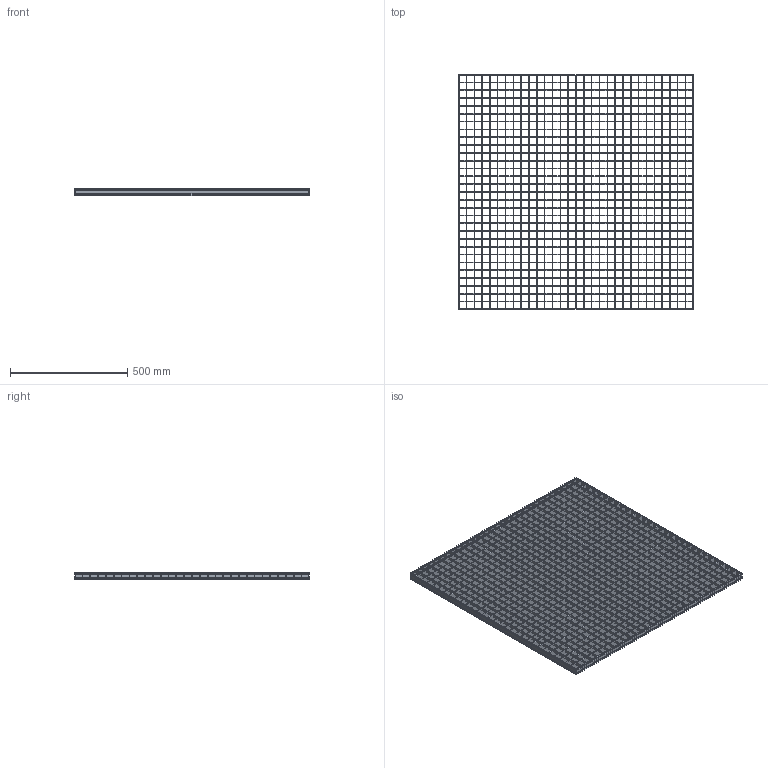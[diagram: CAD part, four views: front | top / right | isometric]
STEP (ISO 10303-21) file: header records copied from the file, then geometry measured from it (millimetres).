
FILE_DESCRIPTION(/* description */ ('STEP AP242','CAx-IF Rec.Pracs.---Representation and Presentation of Product Manufacturing Information (PMI)---4.0---2014-10-13','CAx-IF Rec.Pracs.---3D Tessellated Geometry---0.4---2014-09-14','2;1'),/* implementation_level */ '2;1');
FILE_NAME(/* name */ 'Lichtgitter_Pressure_locked_gratings PX3 330-33-3-1-1-1000-1000_(350_0)',/* time_stamp */ '2026-04-23T08:59:53+02:00',/* author */ ('License CC BY-ND 4.0'),/* organization */ ('CADENAS'),/* preprocessor_version */ 'ST-DEVELOPER v20',/* originating_system */ 'PARTsolutions',/* authorisation */ ' ');
FILE_SCHEMA (('AP242_MANAGED_MODEL_BASED_3D_ENGINEERING_MIM_LF { 1 0 10303 442 1 1 4 }'));
Length unit declared in the file: millimetre
Products named in the file (5): Lichtgitter_Pressure_locked_gratings PX3 330-33-3-1-1-1000-1000_(350_
0); Lichtgitter PX3 330-33-3_(Pressroste_350_1_1000_1000)_VERTICAL; Lichtgitter PX3 330-33-3_(Pressroste_350_1_1000_1000)_HORIZONTAL_C; Lichtgitter PX3 330-33-3_(Pressroste_350_1_1000_1000)_HORIZONTAL; Lichtgitter PX3 330-33-3_(Pressroste_350_1_1000_1000)_VERTICAL_C
Assembly tree (62 placements, depth 2):
  Lichtgitter_Pressure_locked_gratings PX3 330-33-3-1-1-1000-1000_(350_
0)
    Lichtgitter PX3 330-33-3_(Pressroste_350_1_1000_1000)_VERTICAL  x2
    Lichtgitter PX3 330-33-3_(Pressroste_350_1_1000_1000)_HORIZONTAL_C  x29
    Lichtgitter PX3 330-33-3_(Pressroste_350_1_1000_1000)_HORIZONTAL  x2
    Lichtgitter PX3 330-33-3_(Pressroste_350_1_1000_1000)_VERTICAL_C  x29
Bounding box: 1000 x 1000 x 30 mm (x, y, z)
Volume: 3468380.3 mm3; surface area: 2892445.8 mm2
Topology: 62 solids, 62 shells, 3784 faces, 10980 edges, 7320 vertices
Faces by surface type: plane 3752, cylinder 32
Entity records: 5847 total; most frequent: CARTESIAN_POINT 1007, DIRECTION 954, ORIENTED_EDGE 936, EDGE_CURVE 468, LINE 436, VECTOR 436, VERTEX_POINT 312, AXIS2_PLACEMENT_3D 259
